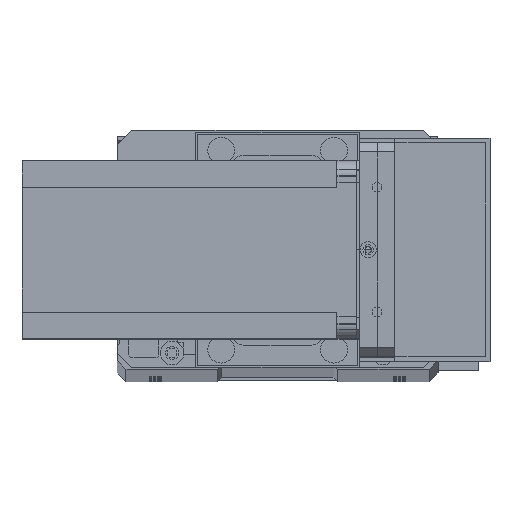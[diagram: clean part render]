
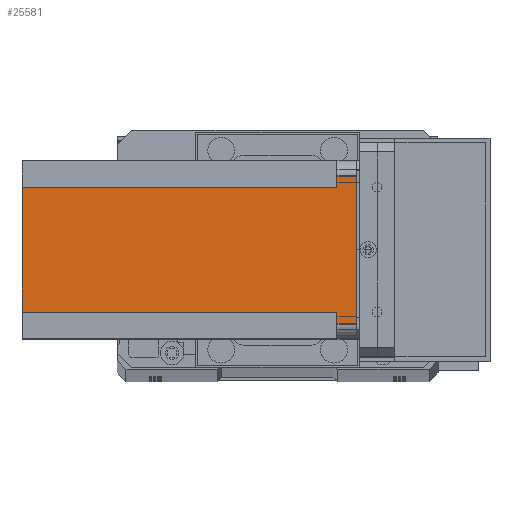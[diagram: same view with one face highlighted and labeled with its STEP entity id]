
A CAD part, top view. The second image highlights one B-rep face of the part: STEP entity #25581.
In plain terms, the highlighted planar face has unit normal (0, 0, 1) as drawn and (1, 0, 0) by its records, which use the part's own axes.
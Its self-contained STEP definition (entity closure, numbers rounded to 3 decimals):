
#50 = CARTESIAN_POINT ( 'NONE',  ( 60., 51., -112.5 ) ) ;
#1923 = DIRECTION ( 'NONE',  ( 0., -1., 0. ) ) ;
#3509 = LINE ( 'NONE', #5077, #17431 ) ;
#3781 = DIRECTION ( 'NONE',  ( 0., 0., 1. ) ) ;
#4517 = LINE ( 'NONE', #19044, #24558 ) ;
#4662 = DIRECTION ( 'NONE',  ( 0., 1., 0. ) ) ;
#5077 = CARTESIAN_POINT ( 'NONE',  ( 60., 60., -6.5 ) ) ;
#6129 = LINE ( 'NONE', #8646, #25367 ) ;
#6166 = VECTOR ( 'NONE', #3781, 1000. ) ;
#6288 = CARTESIAN_POINT ( 'NONE',  ( 60., 55., -112.5 ) ) ;
#6975 = EDGE_CURVE ( 'NONE', #28449, #10599, #6129, .T. ) ;
#7723 = VERTEX_POINT ( 'NONE', #29165 ) ;
#8646 = CARTESIAN_POINT ( 'NONE',  ( 60., 0., 0. ) ) ;
#9031 = DIRECTION ( 'NONE',  ( 0., 0., -1. ) ) ;
#9723 = CARTESIAN_POINT ( 'NONE',  ( 60., 0., -6.5 ) ) ;
#9935 = VECTOR ( 'NONE', #13805, 1000. ) ;
#9952 = EDGE_LOOP ( 'NONE', ( #28735, #31706, #32450, #33870, #19724, #28070, #13009, #17276 ) ) ;
#10510 = VECTOR ( 'NONE', #24790, 1000. ) ;
#10599 = VERTEX_POINT ( 'NONE', #32015 ) ;
#12131 = EDGE_CURVE ( 'NONE', #30083, #33105, #17730, .T. ) ;
#13009 = ORIENTED_EDGE ( 'NONE', *, *, #18745, .T. ) ;
#13758 = DIRECTION ( 'NONE',  ( 0., 1., 0. ) ) ;
#13805 = DIRECTION ( 'NONE',  ( 0., 0., 1. ) ) ;
#14149 = EDGE_CURVE ( 'NONE', #7723, #10599, #20102, .T. ) ;
#15008 = CARTESIAN_POINT ( 'NONE',  ( 60., 0., -112.5 ) ) ;
#15342 = CARTESIAN_POINT ( 'NONE',  ( 60., 9., -112.5 ) ) ;
#16889 = CARTESIAN_POINT ( 'NONE',  ( 60., 51., -112.5 ) ) ;
#17276 = ORIENTED_EDGE ( 'NONE', *, *, #33803, .F. ) ;
#17431 = VECTOR ( 'NONE', #33774, 1000. ) ;
#17468 = LINE ( 'NONE', #16889, #10510 ) ;
#17730 = LINE ( 'NONE', #26862, #9935 ) ;
#18745 = EDGE_CURVE ( 'NONE', #30083, #23153, #4517, .T. ) ;
#19044 = CARTESIAN_POINT ( 'NONE',  ( 60., 0., -112.5 ) ) ;
#19459 = CARTESIAN_POINT ( 'NONE',  ( 60., 5., -112.5 ) ) ;
#19724 = ORIENTED_EDGE ( 'NONE', *, *, #25001, .F. ) ;
#20102 = LINE ( 'NONE', #6288, #6166 ) ;
#20192 = VECTOR ( 'NONE', #9031, 1000. ) ;
#20326 = DIRECTION ( 'NONE',  ( 1., 0., 0. ) ) ;
#21159 = EDGE_CURVE ( 'NONE', #7723, #32014, #3509, .T. ) ;
#21586 = CARTESIAN_POINT ( 'NONE',  ( 60., 51., -6.5 ) ) ;
#22151 = CARTESIAN_POINT ( 'NONE',  ( 60., 5., -6.5 ) ) ;
#22172 = VECTOR ( 'NONE', #1923, 1000. ) ;
#22732 = EDGE_CURVE ( 'NONE', #28449, #32160, #27125, .T. ) ;
#22995 = LINE ( 'NONE', #9723, #22172 ) ;
#23153 = VERTEX_POINT ( 'NONE', #50 ) ;
#24331 = DIRECTION ( 'NONE',  ( 0., 1., 0. ) ) ;
#24558 = VECTOR ( 'NONE', #13758, 1000. ) ;
#24790 = DIRECTION ( 'NONE',  ( 0., 0., -1. ) ) ;
#25001 = EDGE_CURVE ( 'NONE', #33105, #32160, #22995, .T. ) ;
#25104 = CARTESIAN_POINT ( 'NONE',  ( 60., 5., 0. ) ) ;
#25354 = PLANE ( 'NONE',  #26975 ) ;
#25367 = VECTOR ( 'NONE', #24331, 1000. ) ;
#25581 = ADVANCED_FACE ( 'NONE', ( #27442 ), #25354, .T. ) ;
#26862 = CARTESIAN_POINT ( 'NONE',  ( 60., 9., -112.5 ) ) ;
#26975 = AXIS2_PLACEMENT_3D ( 'NONE', #15008, #20326, #4662 ) ;
#27125 = LINE ( 'NONE', #19459, #20192 ) ;
#27442 = FACE_OUTER_BOUND ( 'NONE', #9952, .T. ) ;
#28070 = ORIENTED_EDGE ( 'NONE', *, *, #12131, .F. ) ;
#28449 = VERTEX_POINT ( 'NONE', #25104 ) ;
#28735 = ORIENTED_EDGE ( 'NONE', *, *, #21159, .F. ) ;
#29165 = CARTESIAN_POINT ( 'NONE',  ( 60., 55., -6.5 ) ) ;
#30083 = VERTEX_POINT ( 'NONE', #15342 ) ;
#31706 = ORIENTED_EDGE ( 'NONE', *, *, #14149, .T. ) ;
#32014 = VERTEX_POINT ( 'NONE', #21586 ) ;
#32015 = CARTESIAN_POINT ( 'NONE',  ( 60., 55., 0. ) ) ;
#32160 = VERTEX_POINT ( 'NONE', #22151 ) ;
#32288 = CARTESIAN_POINT ( 'NONE',  ( 60., 9., -6.5 ) ) ;
#32450 = ORIENTED_EDGE ( 'NONE', *, *, #6975, .F. ) ;
#33105 = VERTEX_POINT ( 'NONE', #32288 ) ;
#33774 = DIRECTION ( 'NONE',  ( 0., -1., 0. ) ) ;
#33803 = EDGE_CURVE ( 'NONE', #32014, #23153, #17468, .T. ) ;
#33870 = ORIENTED_EDGE ( 'NONE', *, *, #22732, .T. ) ;
